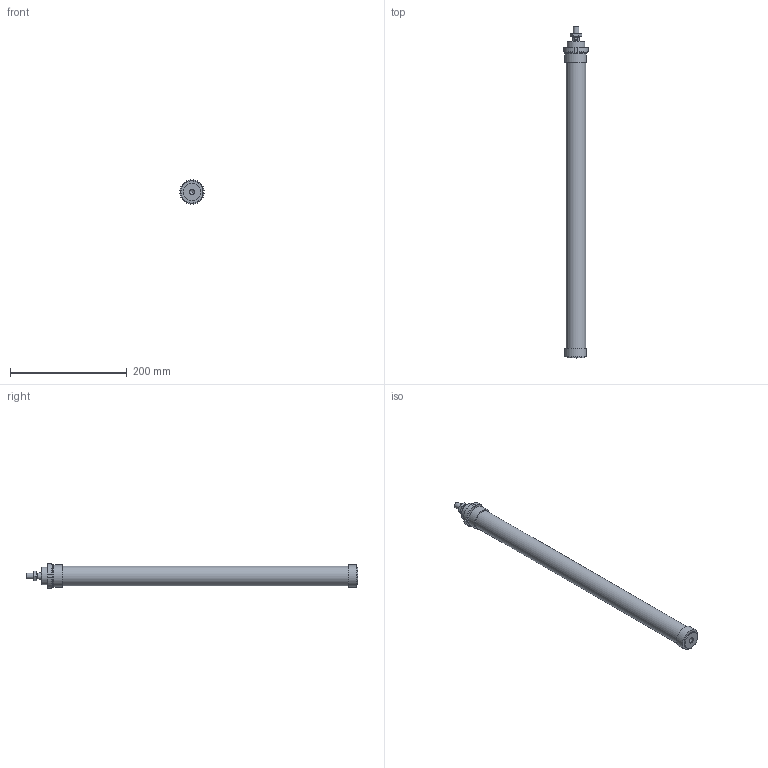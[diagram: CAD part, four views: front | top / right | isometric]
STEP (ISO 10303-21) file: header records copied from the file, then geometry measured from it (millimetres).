
FILE_DESCRIPTION((''),'2;1');
FILE_NAME('I:\Area Tecnica\Disegni\VARIE-3D\Componenti\1280\1281_##_####_#\1281_32_0450.iam.stp','2009-06-04T09:41:35',(''),(''),'Autodesk Inventor 2010','Autodesk Inventor 2010','');
FILE_SCHEMA(('AUTOMOTIVE_DESIGN { 1 0 10303 214 1 1 1 1 }'));
Length unit declared in the file: millimetre
Products named in the file (5): 1281_32_0450; C1281_32_450; S1280_32_450; 1200_32_05; 1200_32_06
Assembly tree (4 placements, depth 2):
  1281_32_0450
    C1281_32_450
    S1280_32_450
    1200_32_05
    1200_32_06
Bounding box: 41.7 x 569.5 x 41.7 mm (x, y, z)
Volume: 491292.3 mm3; surface area: 102698.7 mm2
Topology: 4 solids, 4 shells, 88 faces, 195 edges, 124 vertices
Faces by surface type: plane 39, cone 22, bspline 14, cylinder 13
Full cylindrical faces by diameter (mm): 8.8 x1, 10 x1, 12 x2, 30 x2, 33.6 x1
Entity records: 2663 total; most frequent: CARTESIAN_POINT 675, DIRECTION 362, ORIENTED_EDGE 338, EDGE_CURVE 169, AXIS2_PLACEMENT_3D 150, EDGE_LOOP 122, VERTEX_POINT 119, STYLED_ITEM 92
